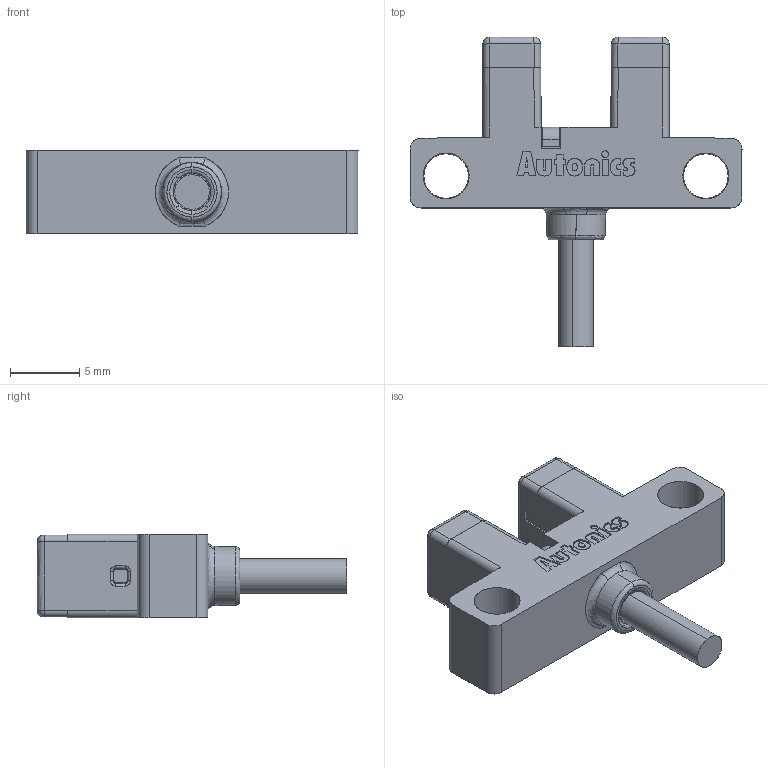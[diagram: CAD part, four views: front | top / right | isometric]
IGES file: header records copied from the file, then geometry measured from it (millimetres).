
Start section: SolidWorks IGES file using analytic representation for surfaces
Global section: file name: C:\Users\10120079\Downloads\BS3(譆謙)\BS3-K1M_BS3-K1M-P_BS3-K1R_BS3-K1R-P.IGS,1; native system: 5HSolidWorks 2018; preprocessor: SolidWorks 2018; author: 10120079; date: 210407.160314; units: millimetre
Bounding box: 23.9 x 22.3 x 6 mm (x, y, z)
Surface area: 1067.6 mm2 (no closed solid volume)
Topology: 0 solids, 0 shells, 221 faces, 1962 edges, 1954 vertices
Faces by surface type: bspline 169, revolution 52
